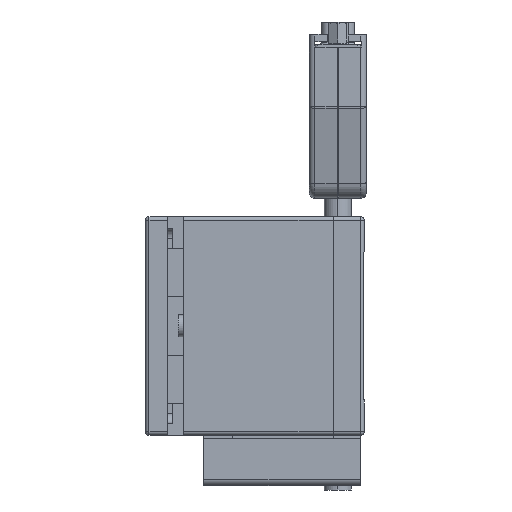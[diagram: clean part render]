
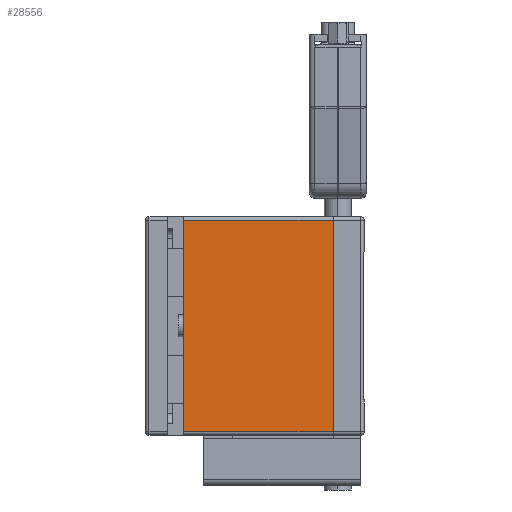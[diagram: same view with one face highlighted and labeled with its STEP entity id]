
A CAD part, left-side view. The second image highlights one B-rep face of the part: STEP entity #28556.
In plain terms, the highlighted planar face has unit normal (-1, 0, 0).
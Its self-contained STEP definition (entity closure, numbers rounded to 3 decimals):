
#680 = DIRECTION ( 'NONE',  ( 0., 1., 0. ) ) ;
#1445 = ORIENTED_EDGE ( 'NONE', *, *, #48013, .F. ) ;
#1628 = VERTEX_POINT ( 'NONE', #37040 ) ;
#1820 = VECTOR ( 'NONE', #36905, 1000. ) ;
#2718 = EDGE_CURVE ( 'NONE', #54753, #1628, #49554, .T. ) ;
#5384 = EDGE_LOOP ( 'NONE', ( #1445, #28066, #46578, #50784 ) ) ;
#8121 = CARTESIAN_POINT ( 'NONE',  ( -26., 0., 29. ) ) ;
#9301 = FACE_OUTER_BOUND ( 'NONE', #5384, .T. ) ;
#12670 = LINE ( 'NONE', #23330, #18349 ) ;
#13899 = LINE ( 'NONE', #18993, #1820 ) ;
#14319 = LINE ( 'NONE', #49511, #52040 ) ;
#18349 = VECTOR ( 'NONE', #680, 1000. ) ;
#18993 = CARTESIAN_POINT ( 'NONE',  ( -26., 0., -0.003 ) ) ;
#21227 = DIRECTION ( 'NONE',  ( 0., 1., 0. ) ) ;
#22277 = EDGE_CURVE ( 'NONE', #49113, #28756, #12670, .T. ) ;
#23330 = CARTESIAN_POINT ( 'NONE',  ( -26., 20.5, 29. ) ) ;
#28066 = ORIENTED_EDGE ( 'NONE', *, *, #22277, .T. ) ;
#28284 = EDGE_CURVE ( 'NONE', #54753, #28756, #14319, .T. ) ;
#28556 = ADVANCED_FACE ( 'NONE', ( #9301 ), #35326, .T. ) ;
#28756 = VERTEX_POINT ( 'NONE', #33634 ) ;
#30408 = CARTESIAN_POINT ( 'NONE',  ( -26., 20.5, -29. ) ) ;
#30800 = AXIS2_PLACEMENT_3D ( 'NONE', #8121, #57609, #21227 ) ;
#33634 = CARTESIAN_POINT ( 'NONE',  ( -26., 41., 29. ) ) ;
#35326 = PLANE ( 'NONE',  #30800 ) ;
#36905 = DIRECTION ( 'NONE',  ( 0., 0., -1. ) ) ;
#37040 = CARTESIAN_POINT ( 'NONE',  ( -26., 0., -29. ) ) ;
#39968 = DIRECTION ( 'NONE',  ( 0., 0., 1. ) ) ;
#41985 = CARTESIAN_POINT ( 'NONE',  ( -26., 0., 29. ) ) ;
#46015 = VECTOR ( 'NONE', #52689, 1000. ) ;
#46578 = ORIENTED_EDGE ( 'NONE', *, *, #28284, .F. ) ;
#48013 = EDGE_CURVE ( 'NONE', #49113, #1628, #13899, .T. ) ;
#49113 = VERTEX_POINT ( 'NONE', #41985 ) ;
#49511 = CARTESIAN_POINT ( 'NONE',  ( -26., 41., 0.003 ) ) ;
#49554 = LINE ( 'NONE', #30408, #46015 ) ;
#50784 = ORIENTED_EDGE ( 'NONE', *, *, #2718, .T. ) ;
#52040 = VECTOR ( 'NONE', #39968, 1000. ) ;
#52689 = DIRECTION ( 'NONE',  ( 0., -1., 0. ) ) ;
#54753 = VERTEX_POINT ( 'NONE', #56479 ) ;
#56479 = CARTESIAN_POINT ( 'NONE',  ( -26., 41., -29. ) ) ;
#57609 = DIRECTION ( 'NONE',  ( -1., 0., 0. ) ) ;
